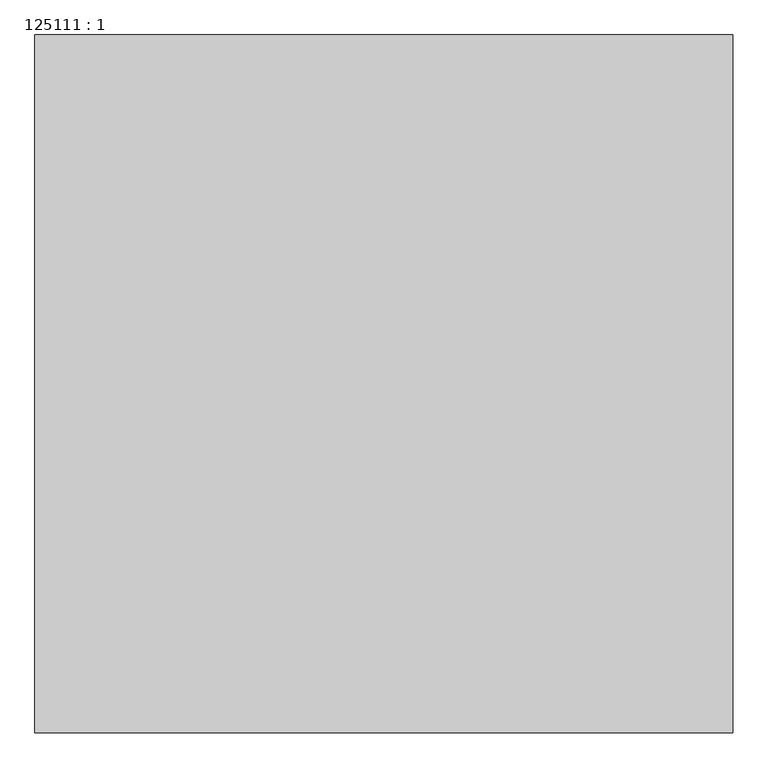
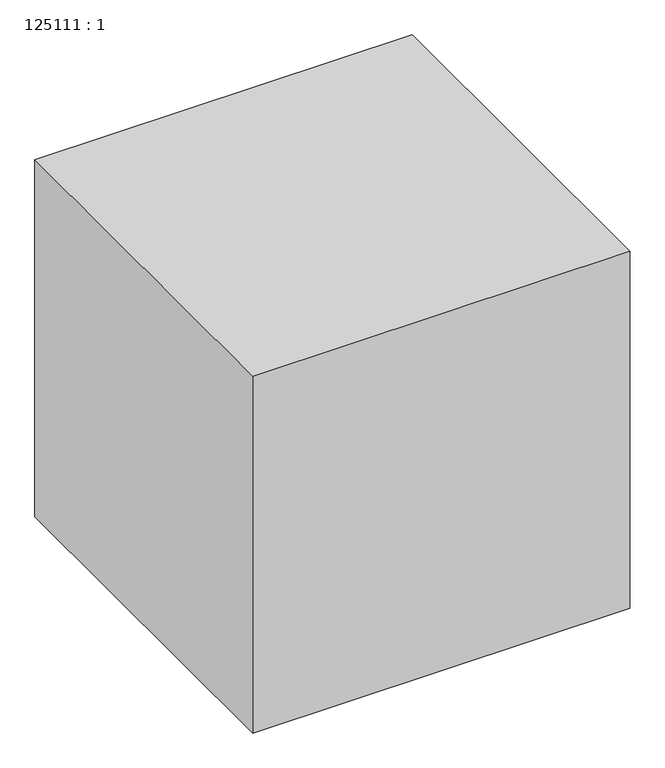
"""IFC4 building model written with IfcOpenShell, lengths in millimetres: proxy geometry, 125111 : 1."""

from ifc_helpers import new_model, si_unit, origin, origin_with_axes, place, context, project, spatial, polyline, outline, extrude, source, transform, mapped, element, save


def proxy_125111_1_22ede781(model_context):
    return source(origin(), model_context, "Body", "SweptSolid", [
        extrude(outline(polyline([(21692.0243292, -8664.7705528), (21692.0243292, -9664.7705528), (20692.0243292, -9664.7705528), (20692.0243292, -8664.7705528), (21692.0243292, -8664.7705528)])), origin_with_axes(), (0.0, 0.0, 1.0), 1000.0),
    ])


if __name__ == "__main__":
    model = new_model("IFC4")
    model_context = context("Model", 3, world=origin())
    ifc_project = project(units=[si_unit("LENGTHUNIT", "METRE", prefix="MILLI")], contexts=[model_context])
    site = spatial("IfcSite", under=ifc_project)
    building = spatial("IfcBuilding", under=site)
    placement = place(None, origin())
    proxy_125111_1_shape = proxy_125111_1_22ede781(model_context)
    element("IfcBuildingElementProxy", 1, Name="125111 : 1", ObjectType="125111 : 1", at=placement, inside=building, context=model_context, shape_type="MappedRepresentation", body=[
        mapped(proxy_125111_1_shape, transform((0.0, 0.0, 0.0), x_axis=(1.0, 0.0, 0.0), y_axis=(0.0, 1.0, 0.0), z_axis=(0.0, 0.0, 1.0))),
    ])
    save(model, "model.ifc")
